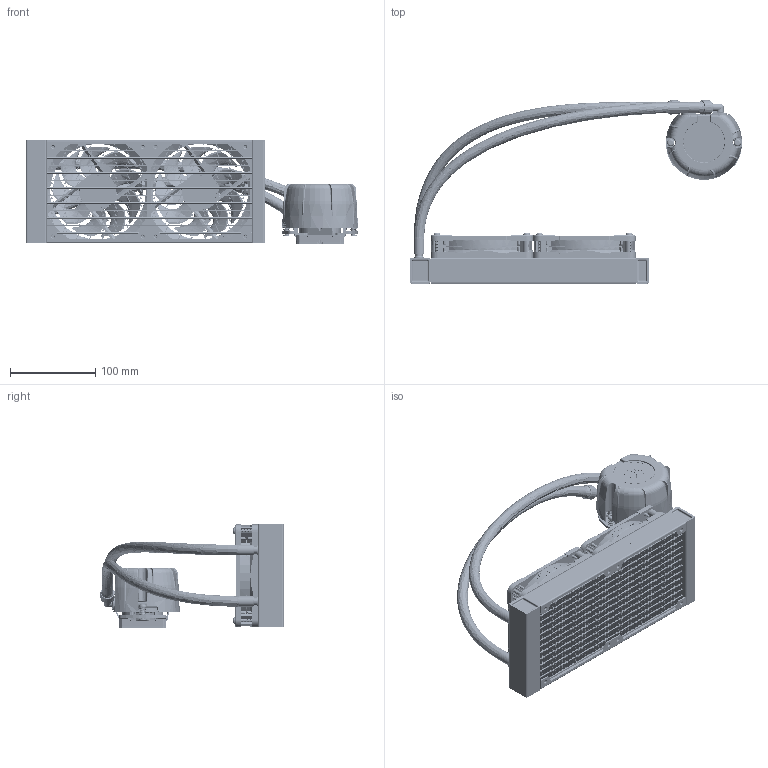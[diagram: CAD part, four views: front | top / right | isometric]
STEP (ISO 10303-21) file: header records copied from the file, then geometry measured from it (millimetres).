
FILE_DESCRIPTION(/* description */ ('140mm Desk Fan'),/* implementation_level */ '2;1');
FILE_NAME(/* name */ 'NL-LC1-24_Public-CAD',/* time_stamp */ '2026-07-02T10:06:49+02:00',/* author */ ('Andreas'),/* organization */ ('Rascom'),/* preprocessor_version */ 'ST-DEVELOPER v18.102',/* originating_system */ 'Solid Edge',/* authorisation */ 'Unknown');
FILE_SCHEMA (('AUTOMOTIVE_DESIGN {1 0 10303 214 3 1 1}'));
Products named in the file (22): NL-LC1-24_Public-CAD; NL-LC1-Pump-Block_Public-CAD; NL-LC1-Coldplate_Public-CAD; NL-PNA1_Public-CAD; NL-LC1-MountingBracket_Public-CAD; NL-LC1-Pump_Public-CAD; NL-LC1_NM-SFB8-TX-BK_Clip_Public-CAD; NL-LC1_NM-SFB8-TX-BK_Screw_Public-CAD; NL-LC1-Pump-Tubes_Public-CAD; NL-LC1_NM-SFB8-TX-BK_Spring_Public-CAD; NL-LC1-Switch_Public-CAD; NL-LC1-24_Radiator_Public-CAD; NL-PFP1_Public-CAD; NL-LC1-24_Tubes_Public-CAD; NM-SFS7-TX-BK; NF-A12x25_G2_Public-CAD; Nf-A12x25_G2_Frame-Public; Nf-A12x25_G2_Impeller-Public; NA-AVP1; NA-AVG1_V2; Fan-Label-D38mm-G2
Assembly tree (35 placements, depth 3):
  NL-LC1-24_Public-CAD
    NL-LC1-Pump-Block_Public-CAD
      NL-LC1-Coldplate_Public-CAD
      NL-PNA1_Public-CAD
      NL-LC1-MountingBracket_Public-CAD
      NL-LC1-Pump_Public-CAD
      NL-LC1_NM-SFB8-TX-BK_Clip_Public-CAD  x2
      NL-LC1_NM-SFB8-TX-BK_Screw_Public-CAD  x2
      NL-LC1-Pump-Tubes_Public-CAD
      NL-LC1_NM-SFB8-TX-BK_Spring_Public-CAD  x2
      NL-LC1-Switch_Public-CAD
    NL-LC1-24_Radiator_Public-CAD
      NL-LC1-24_Radiator_Public-CAD
    NL-PFP1_Public-CAD
    NL-LC1-24_Tubes_Public-CAD
    NM-SFS7-TX-BK  x8
    NF-A12x25_G2_Public-CAD  x2
      Nf-A12x25_G2_Frame-Public
      Nf-A12x25_G2_Impeller-Public
      NA-AVP1
      NA-AVG1_V2
      Fan-Label-D38mm-G2
Bounding box: 388.48 x 214.52 x 120.78 mm (x, y, z)
Volume: 736430.9 mm3; surface area: 1316163.2 mm2
Topology: 101 solids, 115 shells, 21157 faces, 60968 edges, 40018 vertices
Faces by surface type: plane 10533, cylinder 8421, bspline 947, torus 720, cone 426, sphere 110
Full cylindrical faces by diameter (mm): 3 x64, 4 x16, 4.3 x16, 4.7 x8, 5 x11, 5.4 x16, 6.7 x2, 7 x2, 8.6 x8, 8.7 x4, 8.8 x2, 8.9 x2, 9.6 x6, 12 x4, 12.5 x6, 13.258 x2, 38 x4, 43.3 x2, 48.5 x1, 112.004 x2
Entity records: 643292 total; most frequent: CARTESIAN_POINT 150861, ORIENTED_EDGE 100960, DIRECTION 93875, EDGE_CURVE 50480, VERTEX_POINT 33456, LINE 33129, VECTOR 33129, AXIS2_PLACEMENT_3D 30373
